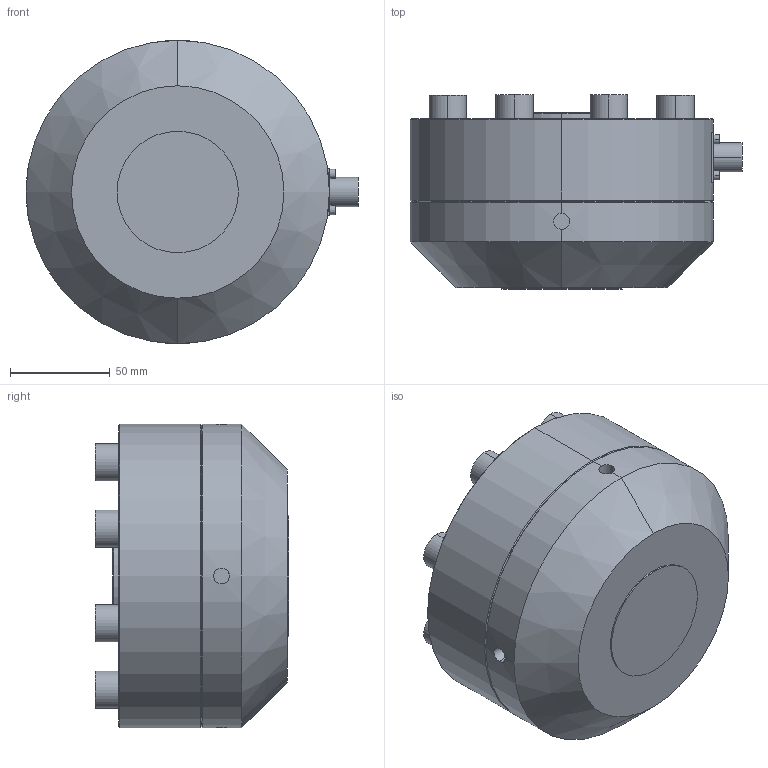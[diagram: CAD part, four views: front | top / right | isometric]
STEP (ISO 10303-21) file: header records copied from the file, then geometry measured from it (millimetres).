
FILE_DESCRIPTION (( 'STEP AP214' ), '1' );
FILE_NAME ('SS1178P50KLB.STEP', '2024-10-30T14:46:02', ( '' ), ( '' ), 'SwSTEP 2.0', 'SolidWorks 2008', '' );
FILE_SCHEMA (( 'AUTOMOTIVE_DESIGN' ));
Length unit declared in the file: inch
Products named in the file (1): SS1178P50KLB
Bounding box: 166.75 x 97.38 x 152.4 mm (x, y, z)
Volume: 1430267.7 mm3; surface area: 82748.4 mm2
Topology: 1 solids, 1 shells, 81 faces, 168 edges, 108 vertices
Faces by surface type: cylinder 44, plane 27, cone 10
Entity records: 2473 total; most frequent: CARTESIAN_POINT 626, DIRECTION 410, ORIENTED_EDGE 336, AXIS2_PLACEMENT_3D 172, EDGE_CURVE 168, VERTEX_POINT 108, EDGE_LOOP 100, CIRCLE 90
